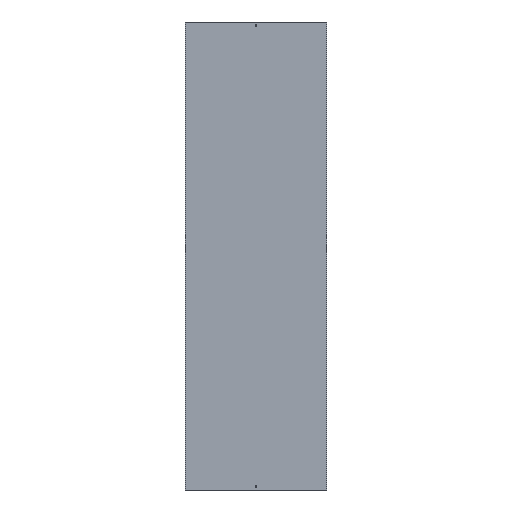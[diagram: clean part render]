
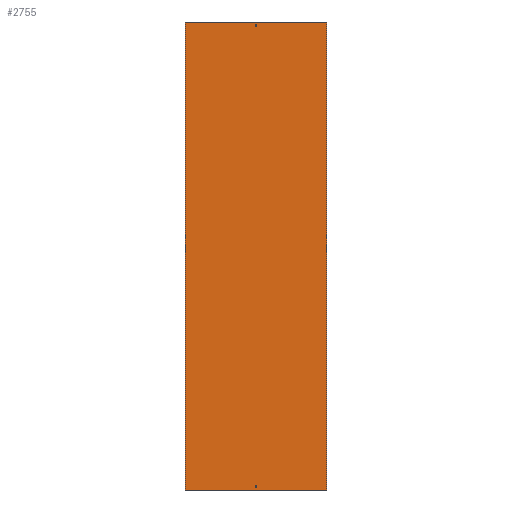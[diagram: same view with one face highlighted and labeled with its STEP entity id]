
A CAD part, front view. The second image highlights one B-rep face of the part: STEP entity #2755.
In plain terms, the highlighted planar face has unit normal (0, -1, 0).
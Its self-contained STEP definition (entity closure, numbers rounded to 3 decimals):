
#51 = VECTOR ( 'NONE', #616, 1000. ) ;
#89 = EDGE_CURVE ( 'NONE', #2260, #784, #839, .T. ) ;
#155 = EDGE_CURVE ( 'NONE', #802, #301, #2353, .T. ) ;
#169 = CARTESIAN_POINT ( 'NONE',  ( -302., 0., -1000. ) ) ;
#260 = LINE ( 'NONE', #521, #867 ) ;
#280 = ORIENTED_EDGE ( 'NONE', *, *, #544, .F. ) ;
#287 = VECTOR ( 'NONE', #1713, 1000. ) ;
#299 = EDGE_CURVE ( 'NONE', #824, #2654, #2617, .T. ) ;
#300 = FACE_BOUND ( 'NONE', #1812, .T. ) ;
#301 = VERTEX_POINT ( 'NONE', #1825 ) ;
#332 = ORIENTED_EDGE ( 'NONE', *, *, #1771, .F. ) ;
#360 = CARTESIAN_POINT ( 'NONE',  ( -302., 0., 1000. ) ) ;
#404 = CARTESIAN_POINT ( 'NONE',  ( 302., 0., -1000. ) ) ;
#414 = LINE ( 'NONE', #2107, #1135 ) ;
#467 = PLANE ( 'NONE',  #1006 ) ;
#486 = VERTEX_POINT ( 'NONE', #1012 ) ;
#521 = CARTESIAN_POINT ( 'NONE',  ( 3.25, 0., 988. ) ) ;
#528 = LINE ( 'NONE', #1372, #695 ) ;
#544 = EDGE_CURVE ( 'NONE', #301, #891, #1838, .T. ) ;
#607 = VECTOR ( 'NONE', #2031, 1000. ) ;
#616 = DIRECTION ( 'NONE',  ( 0., 0., -1. ) ) ;
#652 = CARTESIAN_POINT ( 'NONE',  ( 3.25, 0., -988. ) ) ;
#683 = VECTOR ( 'NONE', #2573, 1000. ) ;
#695 = VECTOR ( 'NONE', #2215, 1000. ) ;
#753 = CARTESIAN_POINT ( 'NONE',  ( -3.25, 0., 988. ) ) ;
#759 = ORIENTED_EDGE ( 'NONE', *, *, #1844, .T. ) ;
#771 = VECTOR ( 'NONE', #1570, 1000. ) ;
#775 = ORIENTED_EDGE ( 'NONE', *, *, #155, .F. ) ;
#784 = VERTEX_POINT ( 'NONE', #1975 ) ;
#796 = VERTEX_POINT ( 'NONE', #2393 ) ;
#797 = LINE ( 'NONE', #1841, #2103 ) ;
#802 = VERTEX_POINT ( 'NONE', #1197 ) ;
#814 = ORIENTED_EDGE ( 'NONE', *, *, #89, .T. ) ;
#815 = ORIENTED_EDGE ( 'NONE', *, *, #1547, .F. ) ;
#824 = VERTEX_POINT ( 'NONE', #1665 ) ;
#839 = LINE ( 'NONE', #2532, #1437 ) ;
#866 = CARTESIAN_POINT ( 'NONE',  ( -302., 0., 1000. ) ) ;
#867 = VECTOR ( 'NONE', #1515, 1000. ) ;
#891 = VERTEX_POINT ( 'NONE', #404 ) ;
#930 = VERTEX_POINT ( 'NONE', #1286 ) ;
#952 = VERTEX_POINT ( 'NONE', #2147 ) ;
#979 = DIRECTION ( 'NONE',  ( -1., 0., 0. ) ) ;
#1006 = AXIS2_PLACEMENT_3D ( 'NONE', #360, #1008, #979 ) ;
#1008 = DIRECTION ( 'NONE',  ( 0., 1., 0. ) ) ;
#1012 = CARTESIAN_POINT ( 'NONE',  ( 3.25, 0., 979. ) ) ;
#1135 = VECTOR ( 'NONE', #1903, 1000. ) ;
#1154 = CARTESIAN_POINT ( 'NONE',  ( -3.25, 0., 979. ) ) ;
#1197 = CARTESIAN_POINT ( 'NONE',  ( -302., 0., 1000. ) ) ;
#1198 = ORIENTED_EDGE ( 'NONE', *, *, #2038, .T. ) ;
#1223 = VECTOR ( 'NONE', #2705, 1000. ) ;
#1234 = LINE ( 'NONE', #169, #287 ) ;
#1286 = CARTESIAN_POINT ( 'NONE',  ( -302., 0., -1000. ) ) ;
#1318 = EDGE_LOOP ( 'NONE', ( #2524, #280, #775, #2359 ) ) ;
#1372 = CARTESIAN_POINT ( 'NONE',  ( -3.25, 0., -988. ) ) ;
#1429 = EDGE_CURVE ( 'NONE', #2654, #486, #797, .T. ) ;
#1434 = ORIENTED_EDGE ( 'NONE', *, *, #2139, .T. ) ;
#1437 = VECTOR ( 'NONE', #1884, 1000. ) ;
#1456 = LINE ( 'NONE', #652, #1980 ) ;
#1515 = DIRECTION ( 'NONE',  ( 0., 0., 1. ) ) ;
#1547 = EDGE_CURVE ( 'NONE', #796, #824, #2077, .T. ) ;
#1570 = DIRECTION ( 'NONE',  ( 0., 0., -1. ) ) ;
#1658 = CARTESIAN_POINT ( 'NONE',  ( 3.25, 0., -988. ) ) ;
#1665 = CARTESIAN_POINT ( 'NONE',  ( -3.25, 0., 988. ) ) ;
#1675 = CARTESIAN_POINT ( 'NONE',  ( -3.25, 0., -988. ) ) ;
#1713 = DIRECTION ( 'NONE',  ( 1., 0., 0. ) ) ;
#1771 = EDGE_CURVE ( 'NONE', #486, #796, #260, .T. ) ;
#1798 = DIRECTION ( 'NONE',  ( 1., 0., 0. ) ) ;
#1812 = EDGE_LOOP ( 'NONE', ( #814, #759, #1434, #1198 ) ) ;
#1825 = CARTESIAN_POINT ( 'NONE',  ( 302., 0., 1000. ) ) ;
#1838 = LINE ( 'NONE', #2689, #51 ) ;
#1841 = CARTESIAN_POINT ( 'NONE',  ( -3.25, 0., 979. ) ) ;
#1844 = EDGE_CURVE ( 'NONE', #784, #952, #2044, .T. ) ;
#1857 = CARTESIAN_POINT ( 'NONE',  ( -3.25, 0., 988. ) ) ;
#1884 = DIRECTION ( 'NONE',  ( 0., 0., 1. ) ) ;
#1903 = DIRECTION ( 'NONE',  ( 0., 0., -1. ) ) ;
#1909 = ORIENTED_EDGE ( 'NONE', *, *, #299, .F. ) ;
#1975 = CARTESIAN_POINT ( 'NONE',  ( -3.25, 0., -979. ) ) ;
#1980 = VECTOR ( 'NONE', #2120, 1000. ) ;
#2031 = DIRECTION ( 'NONE',  ( 1., 0., 0. ) ) ;
#2038 = EDGE_CURVE ( 'NONE', #2569, #2260, #528, .T. ) ;
#2044 = LINE ( 'NONE', #2687, #607 ) ;
#2077 = LINE ( 'NONE', #1857, #1223 ) ;
#2103 = VECTOR ( 'NONE', #1798, 1000. ) ;
#2107 = CARTESIAN_POINT ( 'NONE',  ( -302., 0., 1000. ) ) ;
#2120 = DIRECTION ( 'NONE',  ( 0., 0., -1. ) ) ;
#2139 = EDGE_CURVE ( 'NONE', #952, #2569, #1456, .T. ) ;
#2147 = CARTESIAN_POINT ( 'NONE',  ( 3.25, 0., -979. ) ) ;
#2215 = DIRECTION ( 'NONE',  ( -1., 0., 0. ) ) ;
#2220 = EDGE_CURVE ( 'NONE', #802, #930, #414, .T. ) ;
#2260 = VERTEX_POINT ( 'NONE', #1675 ) ;
#2353 = LINE ( 'NONE', #866, #683 ) ;
#2359 = ORIENTED_EDGE ( 'NONE', *, *, #2220, .T. ) ;
#2366 = FACE_BOUND ( 'NONE', #2680, .T. ) ;
#2390 = ORIENTED_EDGE ( 'NONE', *, *, #1429, .F. ) ;
#2393 = CARTESIAN_POINT ( 'NONE',  ( 3.25, 0., 988. ) ) ;
#2524 = ORIENTED_EDGE ( 'NONE', *, *, #2632, .T. ) ;
#2532 = CARTESIAN_POINT ( 'NONE',  ( -3.25, 0., -988. ) ) ;
#2569 = VERTEX_POINT ( 'NONE', #1658 ) ;
#2573 = DIRECTION ( 'NONE',  ( 1., 0., 0. ) ) ;
#2574 = FACE_OUTER_BOUND ( 'NONE', #1318, .T. ) ;
#2617 = LINE ( 'NONE', #753, #771 ) ;
#2632 = EDGE_CURVE ( 'NONE', #930, #891, #1234, .T. ) ;
#2654 = VERTEX_POINT ( 'NONE', #1154 ) ;
#2680 = EDGE_LOOP ( 'NONE', ( #2390, #1909, #815, #332 ) ) ;
#2687 = CARTESIAN_POINT ( 'NONE',  ( -3.25, 0., -979. ) ) ;
#2689 = CARTESIAN_POINT ( 'NONE',  ( 302., 0., 1000. ) ) ;
#2705 = DIRECTION ( 'NONE',  ( -1., 0., 0. ) ) ;
#2755 = ADVANCED_FACE ( 'NONE', ( #2574, #2366, #300 ), #467, .F. ) ;
